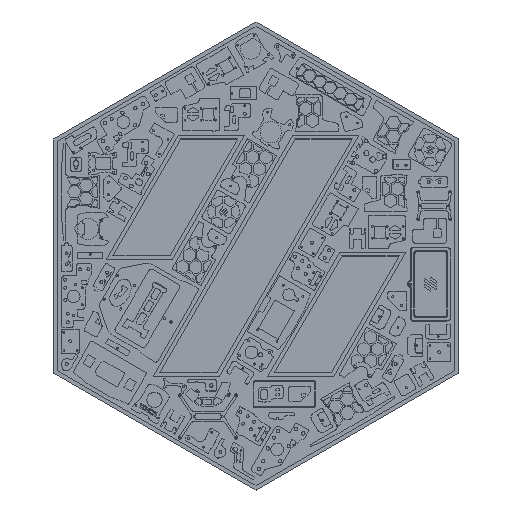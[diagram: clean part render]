
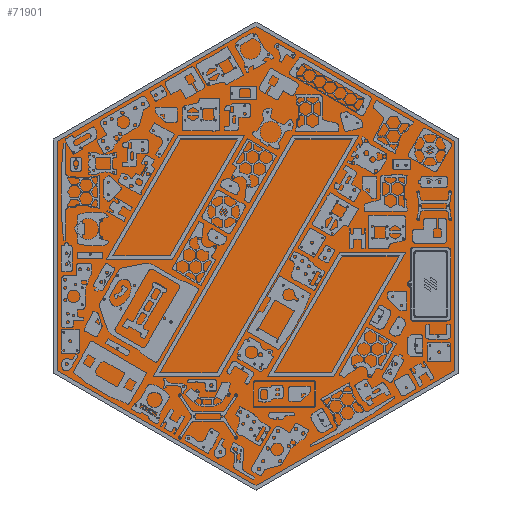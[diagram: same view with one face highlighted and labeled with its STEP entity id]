
A CAD part, top view. The second image highlights one B-rep face of the part: STEP entity #71901.
In plain terms, the highlighted planar face has unit normal (0, 0, 1) as drawn and (0, 0, -1) by its records, which use the part's own axes.
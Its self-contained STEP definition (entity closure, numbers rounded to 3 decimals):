
#7821=FACE_OUTER_BOUND('',#11716,.T.);
#11716=EDGE_LOOP('',(#48745,#48746,#48747,#48748,#48749,#48750));
#16774=LINE('',#111099,#23348);
#16775=LINE('',#111102,#23349);
#16777=LINE('',#111106,#23351);
#16779=LINE('',#111110,#23353);
#16781=LINE('',#111114,#23355);
#16783=LINE('',#111117,#23357);
#23348=VECTOR('',#85326,10.);
#23349=VECTOR('',#85329,10.);
#23351=VECTOR('',#85333,10.);
#23353=VECTOR('',#85337,10.);
#23355=VECTOR('',#85341,10.);
#23357=VECTOR('',#85345,10.);
#29973=VERTEX_POINT('',#111095);
#29974=VERTEX_POINT('',#111097);
#29975=VERTEX_POINT('',#111101);
#29976=VERTEX_POINT('',#111105);
#29977=VERTEX_POINT('',#111109);
#29978=VERTEX_POINT('',#111113);
#37397=EDGE_CURVE('',#29973,#29974,#16774,.T.);
#37398=EDGE_CURVE('',#29975,#29973,#16775,.T.);
#37400=EDGE_CURVE('',#29976,#29975,#16777,.T.);
#37402=EDGE_CURVE('',#29977,#29976,#16779,.T.);
#37404=EDGE_CURVE('',#29978,#29977,#16781,.T.);
#37406=EDGE_CURVE('',#29974,#29978,#16783,.T.);
#48745=ORIENTED_EDGE('',*,*,#37397,.T.);
#48746=ORIENTED_EDGE('',*,*,#37406,.T.);
#48747=ORIENTED_EDGE('',*,*,#37404,.T.);
#48748=ORIENTED_EDGE('',*,*,#37402,.T.);
#48749=ORIENTED_EDGE('',*,*,#37400,.T.);
#48750=ORIENTED_EDGE('',*,*,#37398,.T.);
#70075=PLANE('',#76922);
#71901=ADVANCED_FACE('',(#7821),#70075,.F.);
#76922=AXIS2_PLACEMENT_3D('',#111121,#85351,#85352);
#85326=DIRECTION('',(-0.866,0.5,0.));
#85329=DIRECTION('',(-0.866,-0.5,0.));
#85333=DIRECTION('',(0.,-1.,0.));
#85337=DIRECTION('',(0.866,-0.5,0.));
#85341=DIRECTION('',(0.866,0.5,0.));
#85345=DIRECTION('',(0.,1.,0.));
#85351=DIRECTION('center_axis',(0.,0.,1.));
#85352=DIRECTION('ref_axis',(1.,0.,0.));
#111095=CARTESIAN_POINT('',(0.,-150.025,0.64));
#111097=CARTESIAN_POINT('',(-129.925,-75.012,0.64));
#111099=CARTESIAN_POINT('',(-68.211,-110.643,0.64));
#111101=CARTESIAN_POINT('',(129.925,-75.012,0.64));
#111102=CARTESIAN_POINT('',(61.065,-114.769,0.64));
#111105=CARTESIAN_POINT('',(129.925,75.012,0.64));
#111106=CARTESIAN_POINT('',(129.925,-4.501,0.64));
#111109=CARTESIAN_POINT('',(0.,150.025,0.64));
#111110=CARTESIAN_POINT('',(68.211,110.643,0.64));
#111113=CARTESIAN_POINT('',(-129.925,75.012,0.64));
#111114=CARTESIAN_POINT('',(-62.364,114.019,0.64));
#111117=CARTESIAN_POINT('',(-129.925,3.001,0.64));
#111121=CARTESIAN_POINT('Origin',(-0.866,-1.5,
0.64));
